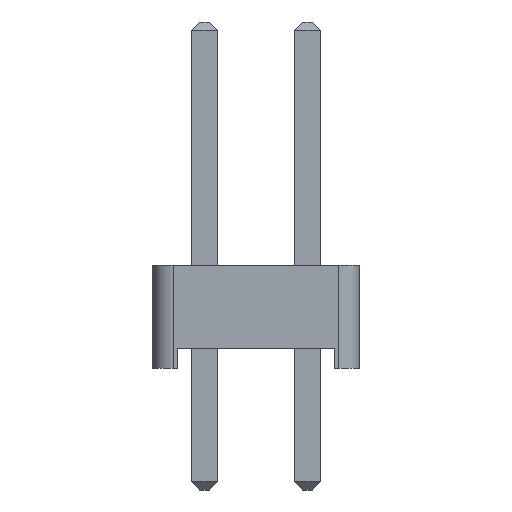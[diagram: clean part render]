
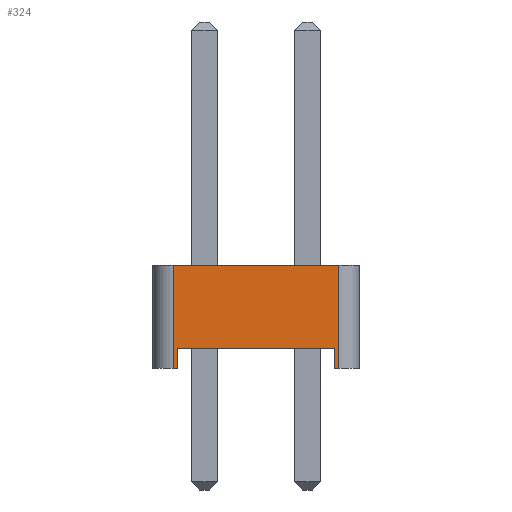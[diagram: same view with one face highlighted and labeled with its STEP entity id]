
A CAD part, left-side view. The second image highlights one B-rep face of the part: STEP entity #324.
In plain terms, the highlighted planar face has unit normal (-1, 0, 0).
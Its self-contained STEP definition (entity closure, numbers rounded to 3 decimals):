
#64 = VERTEX_POINT('',#65);
#65 = CARTESIAN_POINT('',(-1.27,2.04,0.));
#73 = PLANE('',#74);
#74 = AXIS2_PLACEMENT_3D('',#75,#76,#77);
#75 = CARTESIAN_POINT('',(0.,0.,0.));
#76 = DIRECTION('',(-0.,-0.,-1.));
#77 = DIRECTION('',(-1.,0.,0.));
#89 = CYLINDRICAL_SURFACE('',#90,0.5);
#90 = AXIS2_PLACEMENT_3D('',#91,#92,#93);
#91 = CARTESIAN_POINT('',(-0.77,2.04,0.));
#92 = DIRECTION('',(0.,0.,1.));
#93 = DIRECTION('',(0.,1.,0.));
#191 = VERTEX_POINT('',#192);
#192 = CARTESIAN_POINT('',(-1.27,1.94,0.));
#206 = PLANE('',#207);
#207 = AXIS2_PLACEMENT_3D('',#208,#209,#210);
#208 = CARTESIAN_POINT('',(1.27,1.94,0.));
#209 = DIRECTION('',(0.,-1.,0.));
#210 = DIRECTION('',(-1.,0.,0.));
#218 = EDGE_CURVE('',#191,#64,#219,.T.);
#219 = SURFACE_CURVE('',#220,(#224,#231),.PCURVE_S1.);
#220 = LINE('',#221,#222);
#221 = CARTESIAN_POINT('',(-1.27,-2.54,0.));
#222 = VECTOR('',#223,1.);
#223 = DIRECTION('',(0.,1.,0.));
#224 = PCURVE('',#73,#225);
#225 = DEFINITIONAL_REPRESENTATION('',(#226),#230);
#226 = LINE('',#227,#228);
#227 = CARTESIAN_POINT('',(1.27,-2.54));
#228 = VECTOR('',#229,1.);
#229 = DIRECTION('',(0.,1.));
#230 = ( GEOMETRIC_REPRESENTATION_CONTEXT(2) 
PARAMETRIC_REPRESENTATION_CONTEXT() REPRESENTATION_CONTEXT('2D SPACE',''
  ) );
#231 = PCURVE('',#232,#237);
#232 = PLANE('',#233);
#233 = AXIS2_PLACEMENT_3D('',#234,#235,#236);
#234 = CARTESIAN_POINT('',(-1.27,-2.54,0.));
#235 = DIRECTION('',(-1.,0.,0.));
#236 = DIRECTION('',(0.,1.,0.));
#237 = DEFINITIONAL_REPRESENTATION('',(#238),#242);
#238 = LINE('',#239,#240);
#239 = CARTESIAN_POINT('',(0.,0.));
#240 = VECTOR('',#241,1.);
#241 = DIRECTION('',(1.,0.));
#242 = ( GEOMETRIC_REPRESENTATION_CONTEXT(2) 
PARAMETRIC_REPRESENTATION_CONTEXT() REPRESENTATION_CONTEXT('2D SPACE',''
  ) );
#248 = EDGE_CURVE('',#64,#249,#251,.T.);
#249 = VERTEX_POINT('',#250);
#250 = CARTESIAN_POINT('',(-1.27,2.04,2.54));
#251 = SURFACE_CURVE('',#252,(#256,#263),.PCURVE_S1.);
#252 = LINE('',#253,#254);
#253 = CARTESIAN_POINT('',(-1.27,2.04,0.));
#254 = VECTOR('',#255,1.);
#255 = DIRECTION('',(0.,0.,1.));
#256 = PCURVE('',#89,#257);
#257 = DEFINITIONAL_REPRESENTATION('',(#258),#262);
#258 = LINE('',#259,#260);
#259 = CARTESIAN_POINT('',(1.571,0.));
#260 = VECTOR('',#261,1.);
#261 = DIRECTION('',(0.,1.));
#262 = ( GEOMETRIC_REPRESENTATION_CONTEXT(2) 
PARAMETRIC_REPRESENTATION_CONTEXT() REPRESENTATION_CONTEXT('2D SPACE',''
  ) );
#263 = PCURVE('',#232,#264);
#264 = DEFINITIONAL_REPRESENTATION('',(#265),#269);
#265 = LINE('',#266,#267);
#266 = CARTESIAN_POINT('',(4.58,0.));
#267 = VECTOR('',#268,1.);
#268 = DIRECTION('',(0.,-1.));
#269 = ( GEOMETRIC_REPRESENTATION_CONTEXT(2) 
PARAMETRIC_REPRESENTATION_CONTEXT() REPRESENTATION_CONTEXT('2D SPACE',''
  ) );
#288 = PLANE('',#289);
#289 = AXIS2_PLACEMENT_3D('',#290,#291,#292);
#290 = CARTESIAN_POINT('',(0.,0.,2.54));
#291 = DIRECTION('',(-0.,-0.,-1.));
#292 = DIRECTION('',(-1.,0.,0.));
#324 = ADVANCED_FACE('',(#325),#232,.T.);
#325 = FACE_BOUND('',#326,.T.);
#326 = EDGE_LOOP('',(#327,#357,#385,#406,#407,#408,#431,#459));
#327 = ORIENTED_EDGE('',*,*,#328,.F.);
#328 = EDGE_CURVE('',#329,#331,#333,.T.);
#329 = VERTEX_POINT('',#330);
#330 = CARTESIAN_POINT('',(-1.27,-2.04,0.));
#331 = VERTEX_POINT('',#332);
#332 = CARTESIAN_POINT('',(-1.27,-1.94,0.));
#333 = SURFACE_CURVE('',#334,(#338,#345),.PCURVE_S1.);
#334 = LINE('',#335,#336);
#335 = CARTESIAN_POINT('',(-1.27,-2.54,0.));
#336 = VECTOR('',#337,1.);
#337 = DIRECTION('',(0.,1.,0.));
#338 = PCURVE('',#232,#339);
#339 = DEFINITIONAL_REPRESENTATION('',(#340),#344);
#340 = LINE('',#341,#342);
#341 = CARTESIAN_POINT('',(0.,0.));
#342 = VECTOR('',#343,1.);
#343 = DIRECTION('',(1.,0.));
#344 = ( GEOMETRIC_REPRESENTATION_CONTEXT(2) 
PARAMETRIC_REPRESENTATION_CONTEXT() REPRESENTATION_CONTEXT('2D SPACE',''
  ) );
#345 = PCURVE('',#346,#351);
#346 = PLANE('',#347);
#347 = AXIS2_PLACEMENT_3D('',#348,#349,#350);
#348 = CARTESIAN_POINT('',(0.,0.,0.));
#349 = DIRECTION('',(-0.,-0.,-1.));
#350 = DIRECTION('',(-1.,0.,0.));
#351 = DEFINITIONAL_REPRESENTATION('',(#352),#356);
#352 = LINE('',#353,#354);
#353 = CARTESIAN_POINT('',(1.27,-2.54));
#354 = VECTOR('',#355,1.);
#355 = DIRECTION('',(0.,1.));
#356 = ( GEOMETRIC_REPRESENTATION_CONTEXT(2) 
PARAMETRIC_REPRESENTATION_CONTEXT() REPRESENTATION_CONTEXT('2D SPACE',''
  ) );
#357 = ORIENTED_EDGE('',*,*,#358,.T.);
#358 = EDGE_CURVE('',#329,#359,#361,.T.);
#359 = VERTEX_POINT('',#360);
#360 = CARTESIAN_POINT('',(-1.27,-2.04,2.54));
#361 = SURFACE_CURVE('',#362,(#366,#373),.PCURVE_S1.);
#362 = LINE('',#363,#364);
#363 = CARTESIAN_POINT('',(-1.27,-2.04,0.));
#364 = VECTOR('',#365,1.);
#365 = DIRECTION('',(0.,0.,1.));
#366 = PCURVE('',#232,#367);
#367 = DEFINITIONAL_REPRESENTATION('',(#368),#372);
#368 = LINE('',#369,#370);
#369 = CARTESIAN_POINT('',(0.5,0.));
#370 = VECTOR('',#371,1.);
#371 = DIRECTION('',(0.,-1.));
#372 = ( GEOMETRIC_REPRESENTATION_CONTEXT(2) 
PARAMETRIC_REPRESENTATION_CONTEXT() REPRESENTATION_CONTEXT('2D SPACE',''
  ) );
#373 = PCURVE('',#374,#379);
#374 = CYLINDRICAL_SURFACE('',#375,0.5);
#375 = AXIS2_PLACEMENT_3D('',#376,#377,#378);
#376 = CARTESIAN_POINT('',(-0.77,-2.04,0.));
#377 = DIRECTION('',(0.,0.,1.));
#378 = DIRECTION('',(0.,-1.,0.));
#379 = DEFINITIONAL_REPRESENTATION('',(#380),#384);
#380 = LINE('',#381,#382);
#381 = CARTESIAN_POINT('',(-1.571,0.));
#382 = VECTOR('',#383,1.);
#383 = DIRECTION('',(-0.,1.));
#384 = ( GEOMETRIC_REPRESENTATION_CONTEXT(2) 
PARAMETRIC_REPRESENTATION_CONTEXT() REPRESENTATION_CONTEXT('2D SPACE',''
  ) );
#385 = ORIENTED_EDGE('',*,*,#386,.T.);
#386 = EDGE_CURVE('',#359,#249,#387,.T.);
#387 = SURFACE_CURVE('',#388,(#392,#399),.PCURVE_S1.);
#388 = LINE('',#389,#390);
#389 = CARTESIAN_POINT('',(-1.27,-2.54,2.54));
#390 = VECTOR('',#391,1.);
#391 = DIRECTION('',(0.,1.,0.));
#392 = PCURVE('',#232,#393);
#393 = DEFINITIONAL_REPRESENTATION('',(#394),#398);
#394 = LINE('',#395,#396);
#395 = CARTESIAN_POINT('',(0.,-2.54));
#396 = VECTOR('',#397,1.);
#397 = DIRECTION('',(1.,0.));
#398 = ( GEOMETRIC_REPRESENTATION_CONTEXT(2) 
PARAMETRIC_REPRESENTATION_CONTEXT() REPRESENTATION_CONTEXT('2D SPACE',''
  ) );
#399 = PCURVE('',#288,#400);
#400 = DEFINITIONAL_REPRESENTATION('',(#401),#405);
#401 = LINE('',#402,#403);
#402 = CARTESIAN_POINT('',(1.27,-2.54));
#403 = VECTOR('',#404,1.);
#404 = DIRECTION('',(0.,1.));
#405 = ( GEOMETRIC_REPRESENTATION_CONTEXT(2) 
PARAMETRIC_REPRESENTATION_CONTEXT() REPRESENTATION_CONTEXT('2D SPACE',''
  ) );
#406 = ORIENTED_EDGE('',*,*,#248,.F.);
#407 = ORIENTED_EDGE('',*,*,#218,.F.);
#408 = ORIENTED_EDGE('',*,*,#409,.T.);
#409 = EDGE_CURVE('',#191,#410,#412,.T.);
#410 = VERTEX_POINT('',#411);
#411 = CARTESIAN_POINT('',(-1.27,1.94,0.5));
#412 = SURFACE_CURVE('',#413,(#417,#424),.PCURVE_S1.);
#413 = LINE('',#414,#415);
#414 = CARTESIAN_POINT('',(-1.27,1.94,0.));
#415 = VECTOR('',#416,1.);
#416 = DIRECTION('',(0.,0.,1.));
#417 = PCURVE('',#232,#418);
#418 = DEFINITIONAL_REPRESENTATION('',(#419),#423);
#419 = LINE('',#420,#421);
#420 = CARTESIAN_POINT('',(4.48,0.));
#421 = VECTOR('',#422,1.);
#422 = DIRECTION('',(0.,-1.));
#423 = ( GEOMETRIC_REPRESENTATION_CONTEXT(2) 
PARAMETRIC_REPRESENTATION_CONTEXT() REPRESENTATION_CONTEXT('2D SPACE',''
  ) );
#424 = PCURVE('',#206,#425);
#425 = DEFINITIONAL_REPRESENTATION('',(#426),#430);
#426 = LINE('',#427,#428);
#427 = CARTESIAN_POINT('',(2.54,0.));
#428 = VECTOR('',#429,1.);
#429 = DIRECTION('',(0.,-1.));
#430 = ( GEOMETRIC_REPRESENTATION_CONTEXT(2) 
PARAMETRIC_REPRESENTATION_CONTEXT() REPRESENTATION_CONTEXT('2D SPACE',''
  ) );
#431 = ORIENTED_EDGE('',*,*,#432,.T.);
#432 = EDGE_CURVE('',#410,#433,#435,.T.);
#433 = VERTEX_POINT('',#434);
#434 = CARTESIAN_POINT('',(-1.27,-1.94,0.5));
#435 = SURFACE_CURVE('',#436,(#440,#447),.PCURVE_S1.);
#436 = LINE('',#437,#438);
#437 = CARTESIAN_POINT('',(-1.27,1.94,0.5));
#438 = VECTOR('',#439,1.);
#439 = DIRECTION('',(0.,-1.,0.));
#440 = PCURVE('',#232,#441);
#441 = DEFINITIONAL_REPRESENTATION('',(#442),#446);
#442 = LINE('',#443,#444);
#443 = CARTESIAN_POINT('',(4.48,-0.5));
#444 = VECTOR('',#445,1.);
#445 = DIRECTION('',(-1.,0.));
#446 = ( GEOMETRIC_REPRESENTATION_CONTEXT(2) 
PARAMETRIC_REPRESENTATION_CONTEXT() REPRESENTATION_CONTEXT('2D SPACE',''
  ) );
#447 = PCURVE('',#448,#453);
#448 = PLANE('',#449);
#449 = AXIS2_PLACEMENT_3D('',#450,#451,#452);
#450 = CARTESIAN_POINT('',(0.,0.,0.5));
#451 = DIRECTION('',(0.,0.,1.));
#452 = DIRECTION('',(1.,0.,0.));
#453 = DEFINITIONAL_REPRESENTATION('',(#454),#458);
#454 = LINE('',#455,#456);
#455 = CARTESIAN_POINT('',(-1.27,1.94));
#456 = VECTOR('',#457,1.);
#457 = DIRECTION('',(0.,-1.));
#458 = ( GEOMETRIC_REPRESENTATION_CONTEXT(2) 
PARAMETRIC_REPRESENTATION_CONTEXT() REPRESENTATION_CONTEXT('2D SPACE',''
  ) );
#459 = ORIENTED_EDGE('',*,*,#460,.F.);
#460 = EDGE_CURVE('',#331,#433,#461,.T.);
#461 = SURFACE_CURVE('',#462,(#466,#473),.PCURVE_S1.);
#462 = LINE('',#463,#464);
#463 = CARTESIAN_POINT('',(-1.27,-1.94,0.));
#464 = VECTOR('',#465,1.);
#465 = DIRECTION('',(0.,0.,1.));
#466 = PCURVE('',#232,#467);
#467 = DEFINITIONAL_REPRESENTATION('',(#468),#472);
#468 = LINE('',#469,#470);
#469 = CARTESIAN_POINT('',(0.6,0.));
#470 = VECTOR('',#471,1.);
#471 = DIRECTION('',(0.,-1.));
#472 = ( GEOMETRIC_REPRESENTATION_CONTEXT(2) 
PARAMETRIC_REPRESENTATION_CONTEXT() REPRESENTATION_CONTEXT('2D SPACE',''
  ) );
#473 = PCURVE('',#474,#479);
#474 = PLANE('',#475);
#475 = AXIS2_PLACEMENT_3D('',#476,#477,#478);
#476 = CARTESIAN_POINT('',(-1.27,-1.94,0.));
#477 = DIRECTION('',(0.,1.,0.));
#478 = DIRECTION('',(1.,0.,0.));
#479 = DEFINITIONAL_REPRESENTATION('',(#480),#484);
#480 = LINE('',#481,#482);
#481 = CARTESIAN_POINT('',(0.,0.));
#482 = VECTOR('',#483,1.);
#483 = DIRECTION('',(0.,-1.));
#484 = ( GEOMETRIC_REPRESENTATION_CONTEXT(2) 
PARAMETRIC_REPRESENTATION_CONTEXT() REPRESENTATION_CONTEXT('2D SPACE',''
  ) );
